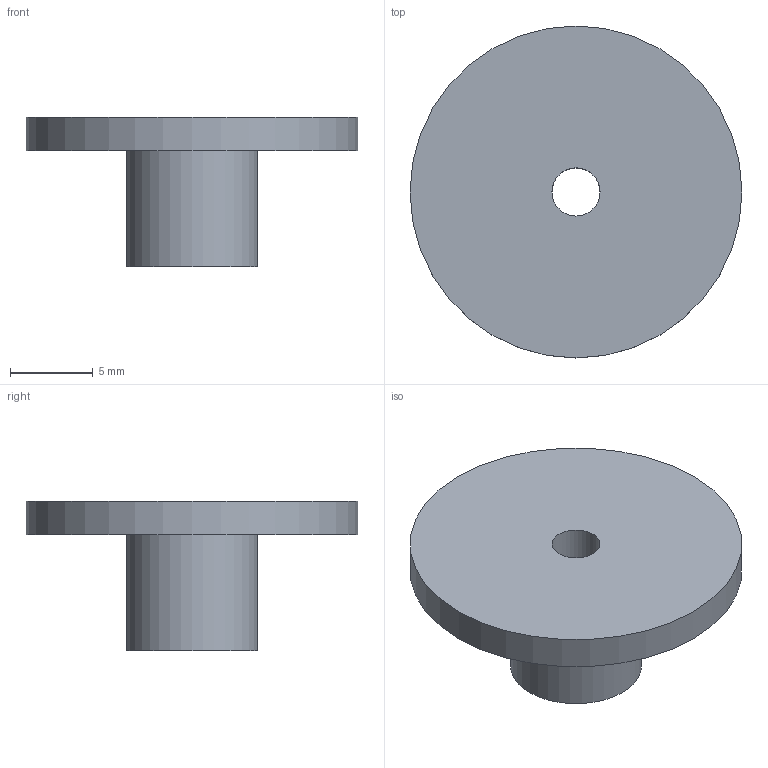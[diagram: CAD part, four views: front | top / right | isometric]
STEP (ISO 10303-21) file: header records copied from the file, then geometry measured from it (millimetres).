
FILE_DESCRIPTION(/* description */ ('STEP AP242 Edition 2','CAx-IF Rec.Pracs.---Representation and Presentation of Product Manufacturing Information (PMI)---4.0---2014-10-13','CAx-IF Rec.Pracs.---3D Tessellated Geometry---0.4---2014-09-14','2;1','CAx-IF Rec.Pracs.---User Defined Attributes---1.5---2016-08-15'),/* implementation_level */ '2;1');
FILE_NAME(/* name */ 'Assembly V2 - Part 1 (6)',/* time_stamp */ '2026-02-05T22:44:41Z',/* author */ (''),/* organization */ (''),/* preprocessor_version */ 'ST-DEVELOPER v20',/* originating_system */ 'ONSHAPE BY PTC INC, 1.210',/* authorisation */ ' ');
FILE_SCHEMA (('AP242_MANAGED_MODEL_BASED_3D_ENGINEERING_MIM_LF { 1 0 10303 442 3 1 4 }'));
Length unit declared in the file: metre
Products named in the file (1): Part 1
Bounding box: 20 x 20 x 9 mm (x, y, z)
Volume: 912 mm3; surface area: 996.5 mm2
Topology: 1 solids, 1 shells, 6 faces, 9 edges, 6 vertices
Faces by surface type: cylinder 3, plane 3
Full cylindrical faces by diameter (mm): 2.9 x1, 7.9 x1, 20 x1
Entity records: 150 total; most frequent: DIRECTION 26, CARTESIAN_POINT 19, AXIS2_PLACEMENT_3D 13, ORIENTED_EDGE 12, EDGE_LOOP 12, FACE_BOUND 12, EDGE_CURVE 6, VERTEX_POINT 6
